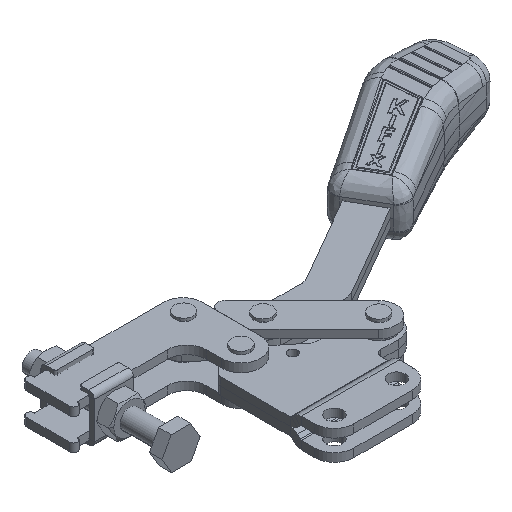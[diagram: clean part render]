
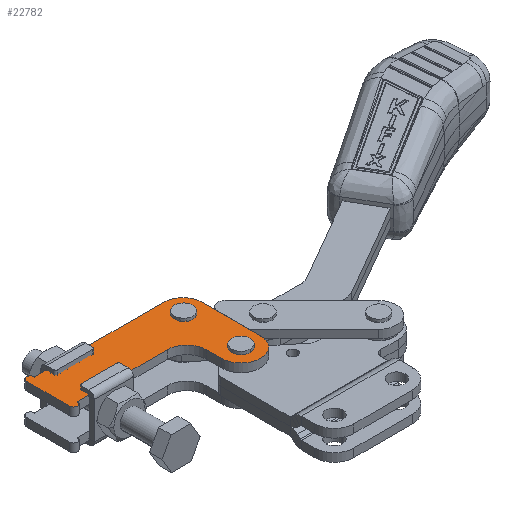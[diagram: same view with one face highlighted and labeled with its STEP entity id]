
A CAD part, isometric view. The second image highlights one B-rep face of the part: STEP entity #22782.
In plain terms, the highlighted planar face has unit normal (0, 0, 1) as drawn and (0, 0, -1) by its records, which use the part's own axes.
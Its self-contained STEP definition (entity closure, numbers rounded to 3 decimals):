
#50 = ORIENTED_EDGE ( 'NONE', *, *, #938, .T. ) ;
#512 = VERTEX_POINT ( 'NONE', #4406 ) ;
#577 = CARTESIAN_POINT ( 'NONE',  ( 80., -1., -4.25 ) ) ;
#875 = DIRECTION ( 'NONE',  ( 0., 0., 1. ) ) ;
#938 = EDGE_CURVE ( 'NONE', #15065, #512, #8392, .T. ) ;
#1034 = EDGE_CURVE ( 'NONE', #6301, #14431, #18175, .T. ) ;
#1052 = CIRCLE ( 'NONE', #21495, 2. ) ;
#1147 = DIRECTION ( 'NONE',  ( 0., 0., 1. ) ) ;
#1207 = VECTOR ( 'NONE', #10760, 1000. ) ;
#1340 = DIRECTION ( 'NONE',  ( 0., 0., 1. ) ) ;
#1429 = EDGE_CURVE ( 'NONE', #21611, #7774, #22213, .T. ) ;
#1474 = CARTESIAN_POINT ( 'NONE',  ( 70., -11., -4.25 ) ) ;
#1599 = EDGE_CURVE ( 'NONE', #7774, #2192, #10660, .T. ) ;
#1684 = VERTEX_POINT ( 'NONE', #13267 ) ;
#1686 = CARTESIAN_POINT ( 'NONE',  ( 66., -0.7, -4.25 ) ) ;
#1857 = AXIS2_PLACEMENT_3D ( 'NONE', #18083, #7070, #19948 ) ;
#2076 = CIRCLE ( 'NONE', #11665, 10. ) ;
#2192 = VERTEX_POINT ( 'NONE', #2722 ) ;
#2316 = CIRCLE ( 'NONE', #1857, 4. ) ;
#2328 = ORIENTED_EDGE ( 'NONE', *, *, #1429, .F. ) ;
#2332 = ORIENTED_EDGE ( 'NONE', *, *, #12201, .F. ) ;
#2597 = EDGE_LOOP ( 'NONE', ( #8927, #6860 ) ) ;
#2675 = AXIS2_PLACEMENT_3D ( 'NONE', #15024, #4003, #16863 ) ;
#2722 = CARTESIAN_POINT ( 'NONE',  ( 0., -11., -4.25 ) ) ;
#2796 = EDGE_CURVE ( 'NONE', #2192, #16265, #1052, .T. ) ;
#3186 = DIRECTION ( 'NONE',  ( 0., 0., 1. ) ) ;
#3320 = DIRECTION ( 'NONE',  ( 0., 0., 1. ) ) ;
#4003 = DIRECTION ( 'NONE',  ( 0., 0., 1. ) ) ;
#4399 = DIRECTION ( 'NONE',  ( 0., 0., 1. ) ) ;
#4406 = CARTESIAN_POINT ( 'NONE',  ( 74., 28.7, -4.25 ) ) ;
#4935 = EDGE_CURVE ( 'NONE', #11597, #21611, #17394, .T. ) ;
#5137 = DIRECTION ( 'NONE',  ( 1., 0., 0. ) ) ;
#5217 = CARTESIAN_POINT ( 'NONE',  ( 80., -1., -4.25 ) ) ;
#5298 = CARTESIAN_POINT ( 'NONE',  ( 0., 11., -4.25 ) ) ;
#5484 = VERTEX_POINT ( 'NONE', #577 ) ;
#6158 = DIRECTION ( 'NONE',  ( 0., 0., -1. ) ) ;
#6301 = VERTEX_POINT ( 'NONE', #11652 ) ;
#6683 = LINE ( 'NONE', #5217, #1207 ) ;
#6776 = CARTESIAN_POINT ( 'NONE',  ( 50., 11., -4.25 ) ) ;
#6803 = CARTESIAN_POINT ( 'NONE',  ( 50., 21., -4.25 ) ) ;
#6860 = ORIENTED_EDGE ( 'NONE', *, *, #10294, .T. ) ;
#6908 = VERTEX_POINT ( 'NONE', #1474 ) ;
#6942 = CARTESIAN_POINT ( 'NONE',  ( 50., 11., -4.25 ) ) ;
#7070 = DIRECTION ( 'NONE',  ( 0., 0., 1. ) ) ;
#7289 = FACE_BOUND ( 'NONE', #13209, .T. ) ;
#7684 = CARTESIAN_POINT ( 'NONE',  ( 4., 11., -4.25 ) ) ;
#7750 = CIRCLE ( 'NONE', #10648, 4. ) ;
#7774 = VERTEX_POINT ( 'NONE', #5298 ) ;
#7879 = FACE_OUTER_BOUND ( 'NONE', #9349, .T. ) ;
#8020 = CARTESIAN_POINT ( 'NONE',  ( 2., 11., -4.25 ) ) ;
#8157 = AXIS2_PLACEMENT_3D ( 'NONE', #8020, #6158, #11721 ) ;
#8260 = ORIENTED_EDGE ( 'NONE', *, *, #4935, .F. ) ;
#8392 = CIRCLE ( 'NONE', #19389, 4. ) ;
#8606 = ORIENTED_EDGE ( 'NONE', *, *, #14955, .F. ) ;
#8667 = DIRECTION ( 'NONE',  ( -1., 0., 0. ) ) ;
#8927 = ORIENTED_EDGE ( 'NONE', *, *, #12410, .T. ) ;
#9256 = CARTESIAN_POINT ( 'NONE',  ( 0., 11., -4.25 ) ) ;
#9349 = EDGE_LOOP ( 'NONE', ( #2328, #8260, #10110, #20112, #19274, #8606, #2332, #20326, #23097, #20134 ) ) ;
#9738 = AXIS2_PLACEMENT_3D ( 'NONE', #14194, #3186, #16040 ) ;
#10110 = ORIENTED_EDGE ( 'NONE', *, *, #15301, .F. ) ;
#10294 = EDGE_CURVE ( 'NONE', #10962, #10331, #2316, .T. ) ;
#10331 = VERTEX_POINT ( 'NONE', #23124 ) ;
#10648 = AXIS2_PLACEMENT_3D ( 'NONE', #11918, #875, #13745 ) ;
#10660 = LINE ( 'NONE', #9256, #14980 ) ;
#10760 = DIRECTION ( 'NONE',  ( 0., 1., 0. ) ) ;
#10962 = VERTEX_POINT ( 'NONE', #1686 ) ;
#11554 = VECTOR ( 'NONE', #23682, 1000. ) ;
#11597 = VERTEX_POINT ( 'NONE', #6776 ) ;
#11652 = CARTESIAN_POINT ( 'NONE',  ( 60., 28.7, -4.25 ) ) ;
#11665 = AXIS2_PLACEMENT_3D ( 'NONE', #6803, #19671, #8667 ) ;
#11721 = DIRECTION ( 'NONE',  ( -1., 0., 0. ) ) ;
#11835 = EDGE_CURVE ( 'NONE', #512, #15065, #7750, .T. ) ;
#11918 = CARTESIAN_POINT ( 'NONE',  ( 70., 28.7, -4.25 ) ) ;
#12114 = VECTOR ( 'NONE', #5137, 1000. ) ;
#12167 = FACE_BOUND ( 'NONE', #2597, .T. ) ;
#12174 = CARTESIAN_POINT ( 'NONE',  ( 2., -11., -4.25 ) ) ;
#12201 = EDGE_CURVE ( 'NONE', #6908, #5484, #21167, .T. ) ;
#12343 = CARTESIAN_POINT ( 'NONE',  ( 70., -0.7, -4.25 ) ) ;
#12375 = CIRCLE ( 'NONE', #18531, 10. ) ;
#12410 = EDGE_CURVE ( 'NONE', #10331, #10962, #18267, .T. ) ;
#12472 = DIRECTION ( 'NONE',  ( -1., 0., 0. ) ) ;
#12503 = VECTOR ( 'NONE', #12472, 1000. ) ;
#12602 = CARTESIAN_POINT ( 'NONE',  ( 60., 28.7, -4.25 ) ) ;
#13209 = EDGE_LOOP ( 'NONE', ( #19068, #50 ) ) ;
#13267 = CARTESIAN_POINT ( 'NONE',  ( 80., 28.7, -4.25 ) ) ;
#13745 = DIRECTION ( 'NONE',  ( 1., 0., 0. ) ) ;
#14008 = DIRECTION ( 'NONE',  ( 1., 0., 0. ) ) ;
#14141 = CARTESIAN_POINT ( 'NONE',  ( 4., -11., -4.25 ) ) ;
#14194 = CARTESIAN_POINT ( 'NONE',  ( 2., 11., -4.25 ) ) ;
#14202 = DIRECTION ( 'NONE',  ( 1., 0., 0. ) ) ;
#14324 = CARTESIAN_POINT ( 'NONE',  ( 70., 28.7, -4.25 ) ) ;
#14431 = VERTEX_POINT ( 'NONE', #21662 ) ;
#14955 = EDGE_CURVE ( 'NONE', #5484, #1684, #6683, .T. ) ;
#14980 = VECTOR ( 'NONE', #22218, 1000. ) ;
#15024 = CARTESIAN_POINT ( 'NONE',  ( 70., -1., -4.25 ) ) ;
#15065 = VERTEX_POINT ( 'NONE', #22118 ) ;
#15301 = EDGE_CURVE ( 'NONE', #14431, #11597, #2076, .T. ) ;
#15402 = CARTESIAN_POINT ( 'NONE',  ( 70., 28.7, -4.25 ) ) ;
#16040 = DIRECTION ( 'NONE',  ( -1., 0., 0. ) ) ;
#16190 = DIRECTION ( 'NONE',  ( 1., 0., 0. ) ) ;
#16265 = VERTEX_POINT ( 'NONE', #14141 ) ;
#16306 = EDGE_CURVE ( 'NONE', #16265, #6908, #16992, .T. ) ;
#16650 = EDGE_CURVE ( 'NONE', #1684, #6301, #12375, .T. ) ;
#16863 = DIRECTION ( 'NONE',  ( 1., 0., 0. ) ) ;
#16992 = LINE ( 'NONE', #21658, #12114 ) ;
#17249 = DIRECTION ( 'NONE',  ( 1., 0., 0. ) ) ;
#17394 = LINE ( 'NONE', #6942, #12503 ) ;
#18083 = CARTESIAN_POINT ( 'NONE',  ( 70., -0.7, -4.25 ) ) ;
#18175 = LINE ( 'NONE', #12602, #11554 ) ;
#18267 = CIRCLE ( 'NONE', #18695, 4. ) ;
#18531 = AXIS2_PLACEMENT_3D ( 'NONE', #15402, #4399, #17249 ) ;
#18695 = AXIS2_PLACEMENT_3D ( 'NONE', #12343, #1340, #14202 ) ;
#19068 = ORIENTED_EDGE ( 'NONE', *, *, #11835, .T. ) ;
#19274 = ORIENTED_EDGE ( 'NONE', *, *, #16650, .F. ) ;
#19389 = AXIS2_PLACEMENT_3D ( 'NONE', #14324, #3320, #16190 ) ;
#19671 = DIRECTION ( 'NONE',  ( 0., 0., -1. ) ) ;
#19948 = DIRECTION ( 'NONE',  ( 1., 0., 0. ) ) ;
#20112 = ORIENTED_EDGE ( 'NONE', *, *, #1034, .F. ) ;
#20134 = ORIENTED_EDGE ( 'NONE', *, *, #1599, .F. ) ;
#20326 = ORIENTED_EDGE ( 'NONE', *, *, #16306, .F. ) ;
#21167 = CIRCLE ( 'NONE', #2675, 10. ) ;
#21495 = AXIS2_PLACEMENT_3D ( 'NONE', #12174, #1147, #14008 ) ;
#21611 = VERTEX_POINT ( 'NONE', #7684 ) ;
#21658 = CARTESIAN_POINT ( 'NONE',  ( 4., -11., -4.25 ) ) ;
#21662 = CARTESIAN_POINT ( 'NONE',  ( 60., 21., -4.25 ) ) ;
#22118 = CARTESIAN_POINT ( 'NONE',  ( 66., 28.7, -4.25 ) ) ;
#22213 = CIRCLE ( 'NONE', #9738, 2. ) ;
#22218 = DIRECTION ( 'NONE',  ( 0., -1., 0. ) ) ;
#22772 = PLANE ( 'NONE',  #8157 ) ;
#22782 = ADVANCED_FACE ( 'NONE', ( #12167, #7289, #7879 ), #22772, .T. ) ;
#23097 = ORIENTED_EDGE ( 'NONE', *, *, #2796, .F. ) ;
#23124 = CARTESIAN_POINT ( 'NONE',  ( 74., -0.7, -4.25 ) ) ;
#23682 = DIRECTION ( 'NONE',  ( 0., -1., 0. ) ) ;
